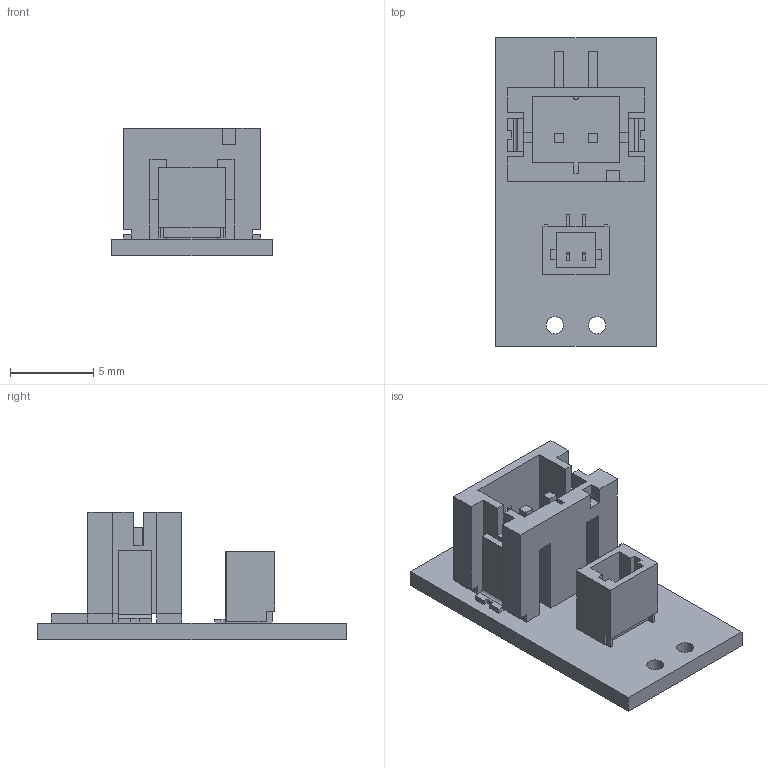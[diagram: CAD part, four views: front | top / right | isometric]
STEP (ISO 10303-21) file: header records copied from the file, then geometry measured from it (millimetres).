
FILE_DESCRIPTION (( 'STEP AP214' ), '1' );
FILE_NAME ('con08a_top_entry.STEP', '2025-08-19T02:34:38', ( '' ), ( '' ), 'SwSTEP 2.0', 'SolidWorks 2025', '' );
FILE_SCHEMA (( 'AUTOMOTIVE_DESIGN' ));
Length unit declared in the file: millimetre
Products named in the file (1): con08a_top_entry
Bounding box: 9.65 x 18.54 x 7.69 mm (x, y, z)
Volume: 384.1 mm3; surface area: 936.1 mm2
Topology: 1 solids, 1 shells, 558 faces, 1545 edges, 1026 vertices
Faces by surface type: plane 355, bspline 194, cylinder 9
Entity records: 31368 total; most frequent: CARTESIAN_POINT 12212, ORIENTED_EDGE 3090, DIRECTION 1905, EDGE_CURVE 1545, VECTOR 1139, LINE 1139, VERTEX_POINT 1026, EDGE_LOOP 621
